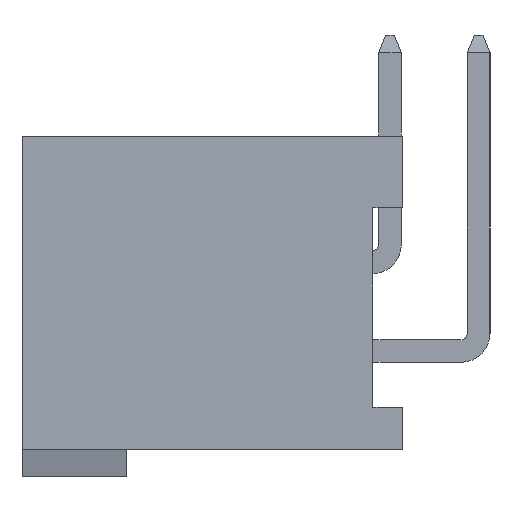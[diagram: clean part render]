
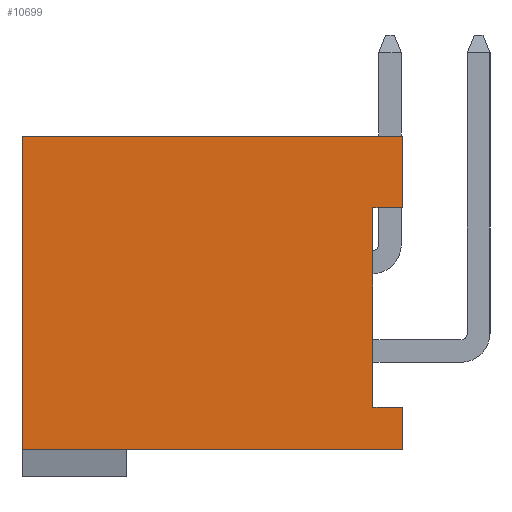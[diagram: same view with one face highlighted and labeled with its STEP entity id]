
A CAD part, left-side view. The second image highlights one B-rep face of the part: STEP entity #10699.
In plain terms, the highlighted planar face has unit normal (-1, 0, 0).
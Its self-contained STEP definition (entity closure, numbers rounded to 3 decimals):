
#933=DIRECTION('',(0.,0.,1.));
#934=VECTOR('',#933,2.05);
#935=CARTESIAN_POINT('',(-22.76,-5.45,2.825));
#936=LINE('',#935,#934);
#953=DIRECTION('',(0.,0.,1.));
#954=VECTOR('',#953,1.225);
#955=CARTESIAN_POINT('',(-22.76,-5.45,-4.1));
#956=LINE('',#955,#954);
#977=DIRECTION('',(0.,-1.,0.));
#978=VECTOR('',#977,10.9);
#979=CARTESIAN_POINT('',(-22.76,5.45,-4.1));
#980=LINE('',#979,#978);
#981=DIRECTION('',(0.,0.,1.));
#982=VECTOR('',#981,8.975);
#983=CARTESIAN_POINT('',(-22.76,5.45,-4.1));
#984=LINE('',#983,#982);
#985=DIRECTION('',(0.,1.,0.));
#986=VECTOR('',#985,0.85);
#987=CARTESIAN_POINT('',(-22.76,-5.45,2.825));
#988=LINE('',#987,#986);
#989=DIRECTION('',(0.,0.,1.));
#990=VECTOR('',#989,5.7);
#991=CARTESIAN_POINT('',(-22.76,-4.6,-2.875));
#992=LINE('',#991,#990);
#993=DIRECTION('',(0.,1.,0.));
#994=VECTOR('',#993,0.85);
#995=CARTESIAN_POINT('',(-22.76,-5.45,-2.875));
#996=LINE('',#995,#994);
#1001=DIRECTION('',(0.,-1.,0.));
#1002=VECTOR('',#1001,10.9);
#1003=CARTESIAN_POINT('',(-22.76,5.45,4.875));
#1004=LINE('',#1003,#1002);
#7465=CARTESIAN_POINT('',(-22.76,5.45,4.875));
#7466=CARTESIAN_POINT('',(-22.76,-5.45,4.875));
#7467=VERTEX_POINT('',#7465);
#7468=VERTEX_POINT('',#7466);
#7485=CARTESIAN_POINT('',(-22.76,-5.45,-2.875));
#7486=CARTESIAN_POINT('',(-22.76,-4.6,-2.875));
#7487=VERTEX_POINT('',#7485);
#7488=VERTEX_POINT('',#7486);
#7489=CARTESIAN_POINT('',(-22.76,-4.6,2.825));
#7490=VERTEX_POINT('',#7489);
#7491=CARTESIAN_POINT('',(-22.76,-5.45,2.825));
#7492=VERTEX_POINT('',#7491);
#7579=CARTESIAN_POINT('',(-22.76,5.45,-4.1));
#7580=CARTESIAN_POINT('',(-22.76,-5.45,-4.1));
#7581=VERTEX_POINT('',#7579);
#7582=VERTEX_POINT('',#7580);
#10682=CARTESIAN_POINT('',(-22.76,5.45,-4.875));
#10683=DIRECTION('',(-1.,0.,0.));
#10684=DIRECTION('',(0.,-1.,0.));
#10685=AXIS2_PLACEMENT_3D('',#10682,#10683,#10684);
#10686=PLANE('',#10685);
#10687=ORIENTED_EDGE('',*,*,#9927,.F.);
#10688=ORIENTED_EDGE('',*,*,#9815,.T.);
#10690=ORIENTED_EDGE('',*,*,#10689,.T.);
#10691=ORIENTED_EDGE('',*,*,#10634,.F.);
#10692=ORIENTED_EDGE('',*,*,#10195,.T.);
#10693=ORIENTED_EDGE('',*,*,#10236,.F.);
#10695=ORIENTED_EDGE('',*,*,#10694,.F.);
#10696=ORIENTED_EDGE('',*,*,#10661,.F.);
#10697=EDGE_LOOP('',(#10687,#10688,#10690,#10691,#10692,#10693,#10695,#10696));
#10698=FACE_OUTER_BOUND('',#10697,.F.);
#10699=ADVANCED_FACE('',(#10698),#10686,.T.);
#9815=EDGE_CURVE('',#7581,#7467,#984,.T.);
#9927=EDGE_CURVE('',#7581,#7582,#980,.T.);
#10195=EDGE_CURVE('',#7492,#7490,#988,.T.);
#10236=EDGE_CURVE('',#7488,#7490,#992,.T.);
#10634=EDGE_CURVE('',#7492,#7468,#936,.T.);
#10661=EDGE_CURVE('',#7582,#7487,#956,.T.);
#10689=EDGE_CURVE('',#7467,#7468,#1004,.T.);
#10694=EDGE_CURVE('',#7487,#7488,#996,.T.);
